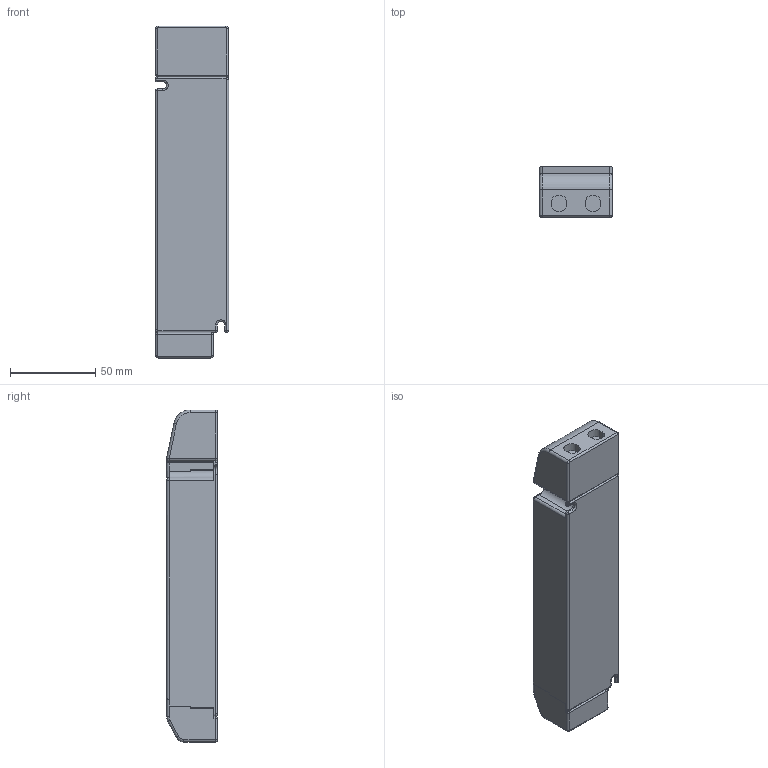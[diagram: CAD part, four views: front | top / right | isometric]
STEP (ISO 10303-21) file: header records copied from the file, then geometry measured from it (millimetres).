
FILE_DESCRIPTION((''),'2;1');
FILE_NAME('15014480Z_DATAMEC_LC_48V_SC4150','2021-04-14T20:18:06',('Juergen.Hrach'),(''),'CREO PARAMETRIC BY PTC INC, 2019164','CREO PARAMETRIC BY PTC INC, 2019164','');
FILE_SCHEMA(('CONFIG_CONTROL_DESIGN'));
Length unit declared in the file: millimetre
Products named in the file (6): DJHR_SC4_DMEC_48V_150X43X30; DEWI_SR-STD_DMEC; DEWI_SR-STD_DMEC_ASSY_150; DEWI_SR-MINI_DMEC; DEWI_SR-MINI_DMEC-ASSY_150; 15014480Z_DATAMEC_LC_48V_SC4150
Assembly tree (5 placements, depth 3):
  15014480Z_DATAMEC_LC_48V_SC4150
    DJHR_SC4_DMEC_48V_150X43X30
    DEWI_SR-STD_DMEC_ASSY_150
      DEWI_SR-STD_DMEC
    DEWI_SR-MINI_DMEC-ASSY_150
      DEWI_SR-MINI_DMEC
Bounding box: 43 x 29.8 x 195 mm (x, y, z)
Volume: 221116.4 mm3; surface area: 43527.6 mm2
Topology: 3 solids, 3 shells, 493 faces, 1293 edges, 818 vertices
Faces by surface type: plane 306, cylinder 142, bspline 18, torus 15, sphere 12
Entity records: 15883 total; most frequent: CARTESIAN_POINT 3542, ORIENTED_EDGE 2586, DIRECTION 2517, EDGE_CURVE 1293, VECTOR 945, LINE 945, VERTEX_POINT 818, AXIS2_PLACEMENT_3D 786
